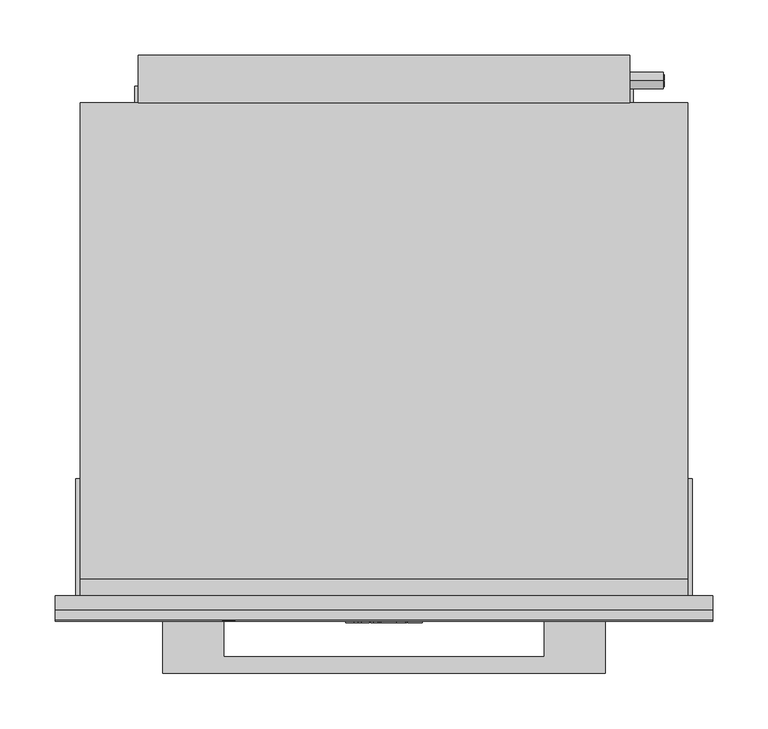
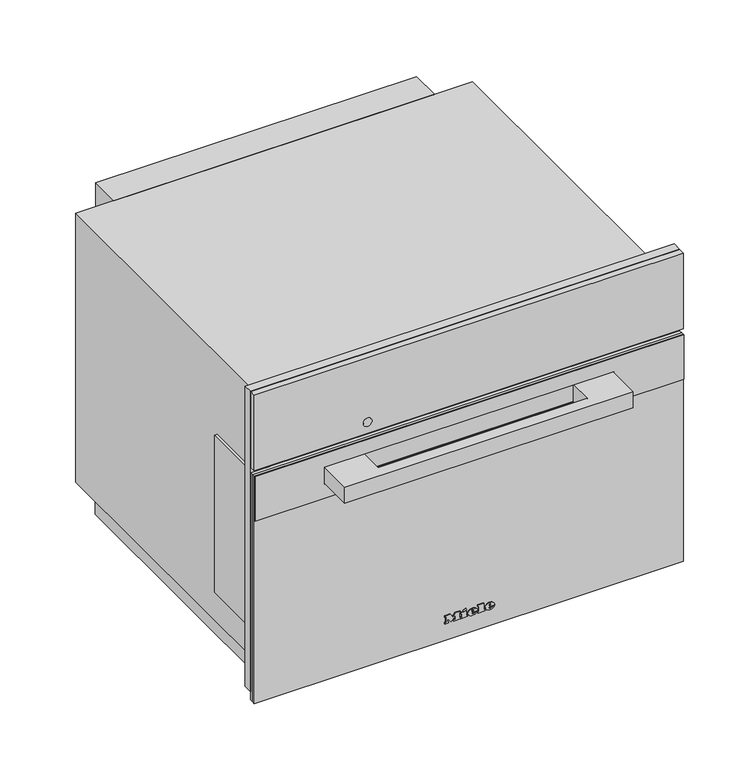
"""IFC4 building model written with IfcOpenShell, lengths in millimetres: proxy geometry, 11100130_F_M7240TC_EDST-CLST : 24724040_F_11100130_M7240TC_EDST-CLST."""

from ifc_helpers import new_model, si_unit, point, frame, frame_2d, origin, origin_with_axes, place, context, project, spatial, polyline, circle_curve, ellipse_curve, trimmed, segment, composite_curve, outline, extrude, faceted_brep, source, transform, mapped, element, save
from ifc_brep_helpers import plane_surface, cylinder_surface, revolved_surface, extruded_surface, advanced_brep


def specialty_equipment_d85db7c3(model_context):
    return source(origin(), model_context, "Body", "SolidModel", [
        extrude(outline(polyline([(456.0, 297.5), (456.0, -297.5), (16.0, -297.5), (16.0, 297.5), (456.0, 297.5)]), holes=[polyline([(347.0, -270.0), (347.0, 270.0), (40.0, 270.0), (40.0, -270.0), (347.0, -270.0)])]), frame((0.0, -13.0, 0.0), z_axis=(0.0, 1.0, 0.0), x_axis=(0.0, 0.0, 1.0)), (0.0, 0.0, 1.0), 13.0),
        extrude(outline(composite_curve([segment(trimmed(circle_curve(frame_2d((251.5, 37.5)), 10.5), [point((251.5, 27.0))], [point((251.5, 48.0))], False, "CARTESIAN"), True, "CONTINUOUS"), segment(trimmed(circle_curve(frame_2d((251.5, 37.5)), 10.5), [point((251.5, 48.0))], [point((251.5, 27.0))], False, "CARTESIAN"), True, "CONTINUOUS")], self_intersect=False)), origin_with_axes(), (0.0, 0.0, 1.0), 3.0),
        extrude(outline(composite_curve([segment(trimmed(circle_curve(frame_2d((251.5, 397.5)), 10.5), [point((251.5, 387.0))], [point((251.5, 408.0))], False, "CARTESIAN"), True, "CONTINUOUS"), segment(trimmed(circle_curve(frame_2d((251.5, 397.5)), 10.5), [point((251.5, 408.0))], [point((251.5, 387.0))], False, "CARTESIAN"), True, "CONTINUOUS")], self_intersect=False)), origin_with_axes(), (0.0, 0.0, 1.0), 3.0),
        extrude(outline(composite_curve([segment(trimmed(circle_curve(frame_2d((-251.5, 397.5)), 10.5), [point((-251.5, 387.0))], [point((-251.5, 408.0))], False, "CARTESIAN"), True, "CONTINUOUS"), segment(trimmed(circle_curve(frame_2d((-251.5, 397.5)), 10.5), [point((-251.5, 408.0))], [point((-251.5, 387.0))], False, "CARTESIAN"), True, "CONTINUOUS")], self_intersect=False)), origin_with_axes(), (0.0, 0.0, 1.0), 3.0),
        extrude(outline(composite_curve([segment(trimmed(circle_curve(frame_2d((-251.5, 37.5)), 10.5), [point((-251.5, 27.0))], [point((-251.5, 48.0))], False, "CARTESIAN"), True, "CONTINUOUS"), segment(trimmed(circle_curve(frame_2d((-251.5, 37.5)), 10.5), [point((-251.5, 48.0))], [point((-251.5, 27.0))], False, "CARTESIAN"), True, "CONTINUOUS")], self_intersect=False)), origin_with_axes(), (0.0, 0.0, 1.0), 3.0),
        extrude(outline(polyline([(115.0, 330.0), (115.0, 130.0), (-115.0, 130.0), (-115.0, 330.0), (115.0, 330.0)])), frame((0.0, 0.0, 11.0), z_axis=(0.0, 0.0, 1.0), x_axis=(1.0, 0.0, 0.0)), (0.0, 0.0, 1.0), 26.0),
        extrude(outline(composite_curve([segment(trimmed(circle_curve(frame_2d((466.0, 369.0)), 7.5), [point((466.0, 361.5))], [point((466.0, 376.5))], False, "CARTESIAN"), True, "CONTINUOUS"), segment(trimmed(circle_curve(frame_2d((466.0, 369.0)), 7.5), [point((466.0, 376.5))], [point((466.0, 361.5))], False, "CARTESIAN"), True, "CONTINUOUS")], self_intersect=False)), frame((222.5, 0.0, 0.0), z_axis=(1.0, 0.0, 0.0), x_axis=(0.0, 1.0, 0.0)), (0.0, 0.0, 1.0), 30.0),
        extrude(outline(polyline([(-222.5, 489.0), (222.5, 489.0), (222.5, 446.0), (-222.5, 446.0), (-222.5, 489.0)])), frame((0.0, 0.0, 316.0), z_axis=(0.0, 0.0, 1.0), x_axis=(1.0, 0.0, 0.0)), (0.0, 0.0, 1.0), 115.0),
        extrude(outline(polyline([(275.0, 0.0), (275.0, 106.0), (279.0, 106.0), (279.0, 0.0), (275.0, 0.0)])), frame((0.0, 0.0, 83.2054686), z_axis=(0.0, 0.0, 1.0), x_axis=(1.0, 0.0, 0.0)), (0.0, 0.0, 1.0), 230.0),
        extrude(outline(polyline([(-279.0, 0.0), (-279.0, 106.0), (-275.0, 106.0), (-275.0, 0.0), (-279.0, 0.0)])), frame((0.0, 0.0, 83.2054686), z_axis=(0.0, 0.0, 1.0), x_axis=(1.0, 0.0, 0.0)), (0.0, 0.0, 1.0), 230.0),
        extrude(outline(polyline([(460.5132233, 374.0), (465.5132233, 374.0), (465.5132233, 373.0), (461.5132233, 373.0), (461.5132233, 369.5), (464.5132233, 369.5), (464.5132233, 368.5), (461.5132233, 368.5), (461.5132233, 365.0), (465.5132233, 365.0), (465.5132233, 364.0), (460.5132233, 364.0), (460.5132233, 374.0)])), frame((252.5, 0.0, 0.0), z_axis=(1.0, 0.0, 0.0), x_axis=(0.0, 1.0, 0.0)), (0.0, 0.0, 1.0), 1.0),
        extrude(outline(polyline([(466.5132233, 364.0), (466.5132233, 374.0), (467.5176929, 374.0), (467.5176929, 365.0), (471.5132233, 365.0), (471.5132233, 364.0), (466.5132233, 364.0)])), frame((252.5, 0.0, 0.0), z_axis=(1.0, 0.0, 0.0), x_axis=(0.0, 1.0, 0.0)), (0.0, 0.0, 1.0), 1.0),
        extrude(outline(polyline([(289.0, -225.5), (58.0, -225.5), (58.0, 0.0), (58.0, 225.5), (289.0, 225.5), (289.0, 0.0), (289.0, -225.5)])), frame((0.0, 446.0, 0.0), z_axis=(0.0, 1.0, 0.0), x_axis=(0.0, 0.0, 1.0)), (0.0, 0.0, 1.0), 15.0),
        faceted_brep([(-275.0, 446.0, 431.0), (275.0, 446.0, 431.0), (275.0, 446.0, 37.0), (-275.0, 446.0, 37.0), (-275.0, 0.0, 37.0), (-264.0, 0.0, 37.0), (-264.0, 0.0, 3.0), (-239.0, 0.0, 3.0), (-239.0, 0.0, 37.0), (239.0, 0.0, 37.0), (239.0, 0.0, 3.0), (264.0, 0.0, 3.0), (264.0, 0.0, 37.0), (275.0, 0.0, 37.0), (275.0, 0.0, 438.0), (-275.0, 0.0, 438.0), (-270.0, 0.0, 347.0), (270.0, 0.0, 347.0), (270.0, 0.0, 40.0), (-270.0, 0.0, 40.0), (-275.0, 15.0, 431.0), (275.0, 15.0, 431.0), (-275.0, 15.0, 438.0), (275.0, 15.0, 438.0), (270.0, 16.0, 347.0), (-270.0, 16.0, 347.0), (-270.0, 16.0, 40.0), (270.0, 16.0, 40.0), (225.0, 16.0, 303.0), (225.0, 16.0, 71.0), (-225.0, 16.0, 71.0), (-225.0, 16.0, 303.0), (225.0, 444.0, 303.0), (-225.0, 444.0, 303.0), (-225.0, 444.0, 71.0), (225.0, 444.0, 71.0), (-239.0, 418.0, 37.0), (-264.0, 418.0, 37.0), (264.0, 418.0, 37.0), (239.0, 418.0, 37.0), (-239.0, 418.0, 3.0), (239.0, 418.0, 3.0), (264.0, 418.0, 3.0), (-264.0, 418.0, 3.0)], [[[0, 1, 2, 3]], [[4, 5, 6, 7, 8, 9, 10, 11, 12, 13, 14, 15], [16, 17, 18, 19]], [[1, 0, 20, 21]], [[0, 3, 4, 15, 22, 20]], [[2, 1, 21, 23, 14, 13]], [[24, 25, 26, 27], [28, 29, 30, 31]], [[25, 24, 17, 16]], [[26, 25, 16, 19]], [[27, 26, 19, 18]], [[24, 27, 18, 17]], [[32, 33, 34, 35]], [[32, 35, 29, 28]], [[35, 34, 30, 29]], [[34, 33, 31, 30]], [[33, 32, 28, 31]], [[14, 23, 22, 15]], [[23, 21, 20, 22]], [[36, 37, 5, 4, 3, 2, 13, 12, 38, 39, 9, 8]], [[36, 8, 7, 40]], [[9, 39, 41, 10]], [[39, 38, 42, 41]], [[38, 12, 11, 42]], [[5, 37, 43, 6]], [[37, 36, 40, 43]], [[7, 6, 43, 40]], [[11, 10, 41, 42]]]),
        advanced_brep(
        [(27.088, -24.3, 32.7018), (27.088, -24.3, 33.8532), (34.7146, -24.3, 33.8532), (21.445, -24.3, 33.8532), (24.58, -24.3, 30.0), (34.5208, -24.3, 32.7018), (31.078, -24.3, 32.7018), (28.3648, -24.3, 31.425), (27.088, -24.3, 35.3124), (27.088, -24.3, 36.555), (29.0374, -24.3, 36.555), (29.0374, -24.3, 35.3124), (27.088, -23.3, 32.7018), (28.3648, -23.3, 31.425), (31.078, -23.3, 32.7018), (34.5208, -23.3, 32.7018), (24.58, -23.3, 30.0), (21.445, -23.3, 33.8532), (34.7146, -23.3, 33.8532), (27.088, -23.3, 33.8532), (27.088, -23.3, 35.3124), (29.0374, -23.3, 35.3124), (29.0374, -23.3, 36.555), (27.088, -23.3, 36.555)],
        [
            (0, 1),
            (1, 2),
            (2, 3, ellipse_curve(frame((28.0798, -24.3, 33.8532), z_axis=(0.0, -1.0, 0.0), x_axis=(-1.0, 0.0, 0.0)), 6.6348, 5.4834)),
            (3, 4, circle_curve(frame((25.8568622, -24.3, 34.2408), z_axis=(0.0, -1.0, 0.0), x_axis=(0.0, 0.0, -1.0)), 4.4288556)),
            (4, 5, circle_curve(frame((27.9469808, -24.3, 37.2504), z_axis=(0.0, -1.0, 0.0), x_axis=(0.0, 0.0, -1.0)), 7.9940516)),
            (5, 6),
            (6, 7, circle_curve(frame((28.9220588, -24.3, 33.762), z_axis=(0.0, 1.0, 0.0), x_axis=(0.0, 0.0, -1.0)), 2.4025208)),
            (7, 0, circle_curve(frame((28.3648, -24.3, 32.7018), z_axis=(0.0, 1.0, 0.0), x_axis=(0.0, 0.0, -1.0)), 1.2768)),
            (8, 9),
            (9, 10, circle_curve(frame((28.0627, -24.3, 36.555), z_axis=(0.0, 1.0, 0.0), x_axis=(0.0, 0.0, -1.0)), 0.9747)),
            (10, 11),
            (11, 8),
            (12, 13, circle_curve(frame((28.3648, -23.3, 32.7018), z_axis=(0.0, -1.0, 0.0), x_axis=(0.0, 0.0, -1.0)), 1.2768)),
            (13, 14, circle_curve(frame((28.9220588, -23.3, 33.762), z_axis=(0.0, -1.0, 0.0), x_axis=(0.0, 0.0, -1.0)), 2.4025208)),
            (14, 15),
            (15, 16, circle_curve(frame((27.9469808, -23.3, 37.2504), z_axis=(0.0, 1.0, 0.0), x_axis=(0.0, 0.0, -1.0)), 7.9940516)),
            (16, 17, circle_curve(frame((25.8568622, -23.3, 34.2408), z_axis=(0.0, 1.0, 0.0), x_axis=(0.0, 0.0, -1.0)), 4.4288556)),
            (17, 18, ellipse_curve(frame((28.0798, -23.3, 33.8532), z_axis=(0.0, 1.0, 0.0), x_axis=(-1.0, 0.0, 0.0)), 6.6348, 5.4834)),
            (18, 19),
            (19, 12),
            (20, 21),
            (21, 22),
            (22, 23, circle_curve(frame((28.0627, -23.3, 36.555), z_axis=(0.0, -1.0, 0.0), x_axis=(0.0, 0.0, -1.0)), 0.9747)),
            (23, 20),
            (0, 12),
            (19, 1),
            (18, 2),
            (5, 15),
            (14, 6),
            (17, 3),
            (13, 7),
            (16, 4),
            (8, 20),
            (23, 9),
            (22, 10),
            (21, 11),
        ],
        [
            plane_surface(frame((27.088, -24.3, 33.8532), z_axis=(0.0, -1.0, 0.0), x_axis=(0.0, 0.0, 1.0))),
            plane_surface(frame((27.088, -23.3, 33.8532), z_axis=(0.0, 1.0, 0.0), x_axis=(0.0, 0.0, -1.0))),
            plane_surface(frame((27.088, -24.3, 32.7018), z_axis=(1.0, 0.0, 0.0), x_axis=(0.0, 1.0, 0.0))),
            plane_surface(frame((27.088, -24.3, 33.8532), z_axis=(0.0, 0.0, -1.0), x_axis=(0.0, 1.0, 0.0))),
            plane_surface(frame((34.5208, -24.3, 32.7018), z_axis=(0.0, 0.0, 1.0), x_axis=(0.0, 1.0, 0.0))),
            extruded_surface(trimmed(ellipse_curve(frame((28.0798, -22.3, 33.8532), z_axis=(0.0, -1.0, 0.0), x_axis=(-1.0, 0.0, 0.0)), 6.6348, 5.4834), [point((34.7146, -22.3, 33.8532))], [point((21.445, -22.3, 33.8532))], True, "CARTESIAN"), (0.0, -1.0, 0.0), 1.0),
            revolved_surface(polyline([(28.9220588, -23.3, 31.3594792), (28.9220588, -24.3, 31.3594792)]), (28.9220588, -23.3, 33.762), (0.0, 1.0, 0.0)),
            revolved_surface(polyline([(28.3648, -23.3, 31.424999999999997), (28.3648, -24.3, 31.424999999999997)]), (28.3648, -23.3, 32.7018), (0.0, 1.0, 0.0)),
            cylinder_surface(frame((25.8568622, -23.3, 34.2408), z_axis=(0.0, -1.0, 0.0), x_axis=(0.0, 0.0, -1.0)), 4.4288556),
            cylinder_surface(frame((27.9469808, -23.3, 37.2504), z_axis=(0.0, -1.0, 0.0), x_axis=(0.0, 0.0, -1.0)), 7.9940516),
            plane_surface(frame((27.088, -24.3, 35.3124), z_axis=(1.0, 0.0, 0.0), x_axis=(0.0, 1.0, 0.0))),
            revolved_surface(polyline([(28.0627, -23.3, 35.5803), (28.0627, -24.3, 35.5803)]), (28.0627, -23.3, 36.555), (0.0, 1.0, 0.0)),
            plane_surface(frame((29.0374, -24.3, 36.555), z_axis=(-1.0, 0.0, 0.0), x_axis=(0.0, 1.0, 0.0))),
            plane_surface(frame((29.0374, -24.3, 35.3124), z_axis=(0.0, 0.0, 1.0), x_axis=(0.0, 1.0, 0.0))),
        ],
        [
            (0, [[1, 2, 3, 4, 5, 6, 7, 8], [9, 10, 11, 12]]),
            (1, [[13, 14, 15, 16, 17, 18, 19, 20], [21, 22, 23, 24]]),
            (2, [[-1, 25, -20, 26]]),
            (3, [[-2, -26, -19, 27]]),
            (4, [[-6, 28, -15, 29]]),
            (5, [[-3, -27, -18, 30]]),
            (6, [[-7, -29, -14, 31]]),
            (7, [[-8, -31, -13, -25]]),
            (8, [[-4, -30, -17, 32]]),
            (9, [[-5, -32, -16, -28]]),
            (10, [[-9, 33, -24, 34]]),
            (11, [[-10, -34, -23, 35]]),
            (12, [[-11, -35, -22, 36]]),
            (13, [[-12, -36, -21, -33]]),
        ],
    ),
        advanced_brep(
        [(3.2962, -24.3, 32.7018), (3.2962, -24.3, 33.8532), (10.9228, -24.3, 33.8532), (-2.3468, -24.3, 33.8532), (0.7882, -24.3, 30.0), (10.729, -24.3, 32.7018), (7.2862, -24.3, 32.7018), (4.573, -24.3, 31.425), (3.2962, -24.3, 35.3124), (3.2962, -24.3, 36.555), (5.2456, -24.3, 36.555), (5.2456, -24.3, 35.3124), (3.2962, -23.3, 32.7018), (4.573, -23.3, 31.425), (7.2862, -23.3, 32.7018), (10.729, -23.3, 32.7018), (0.7882, -23.3, 30.0), (-2.3468, -23.3, 33.8532), (10.9228, -23.3, 33.8532), (3.2962, -23.3, 33.8532), (3.2962, -23.3, 35.3124), (5.2456, -23.3, 35.3124), (5.2456, -23.3, 36.555), (3.2962, -23.3, 36.555)],
        [
            (0, 1),
            (1, 2),
            (2, 3, ellipse_curve(frame((4.288, -24.3, 33.8532), z_axis=(0.0, -1.0, 0.0), x_axis=(-1.0, 0.0, 0.0)), 6.6348, 5.4834)),
            (3, 4, circle_curve(frame((2.0650622, -24.3, 34.2408), z_axis=(0.0, -1.0, 0.0), x_axis=(0.0, 0.0, -1.0)), 4.4288556)),
            (4, 5, circle_curve(frame((4.1551808, -24.3, 37.2504), z_axis=(0.0, -1.0, 0.0), x_axis=(0.0, 0.0, -1.0)), 7.9940516)),
            (5, 6),
            (6, 7, circle_curve(frame((5.1302588, -24.3, 33.762), z_axis=(0.0, 1.0, 0.0), x_axis=(0.0, 0.0, -1.0)), 2.4025208)),
            (7, 0, circle_curve(frame((4.573, -24.3, 32.7018), z_axis=(0.0, 1.0, 0.0), x_axis=(0.0, 0.0, -1.0)), 1.2768)),
            (8, 9),
            (9, 10, circle_curve(frame((4.2709, -24.3, 36.555), z_axis=(0.0, 1.0, 0.0), x_axis=(0.0, 0.0, -1.0)), 0.9747)),
            (10, 11),
            (11, 8),
            (12, 13, circle_curve(frame((4.573, -23.3, 32.7018), z_axis=(0.0, -1.0, 0.0), x_axis=(0.0, 0.0, -1.0)), 1.2768)),
            (13, 14, circle_curve(frame((5.1302588, -23.3, 33.762), z_axis=(0.0, -1.0, 0.0), x_axis=(0.0, 0.0, -1.0)), 2.4025208)),
            (14, 15),
            (15, 16, circle_curve(frame((4.1551808, -23.3, 37.2504), z_axis=(0.0, 1.0, 0.0), x_axis=(0.0, 0.0, -1.0)), 7.9940516)),
            (16, 17, circle_curve(frame((2.0650622, -23.3, 34.2408), z_axis=(0.0, 1.0, 0.0), x_axis=(0.0, 0.0, -1.0)), 4.4288556)),
            (17, 18, ellipse_curve(frame((4.288, -23.3, 33.8532), z_axis=(0.0, 1.0, 0.0), x_axis=(-1.0, 0.0, 0.0)), 6.6348, 5.4834)),
            (18, 19),
            (19, 12),
            (20, 21),
            (21, 22),
            (22, 23, circle_curve(frame((4.2709, -23.3, 36.555), z_axis=(0.0, -1.0, 0.0), x_axis=(0.0, 0.0, -1.0)), 0.9747)),
            (23, 20),
            (0, 12),
            (19, 1),
            (18, 2),
            (5, 15),
            (14, 6),
            (17, 3),
            (13, 7),
            (16, 4),
            (8, 20),
            (23, 9),
            (22, 10),
            (21, 11),
        ],
        [
            plane_surface(frame((3.2962, -24.3, 33.8532), z_axis=(0.0, -1.0, 0.0), x_axis=(0.0, 0.0, 1.0))),
            plane_surface(frame((3.2962, -23.3, 33.8532), z_axis=(0.0, 1.0, 0.0), x_axis=(0.0, 0.0, -1.0))),
            plane_surface(frame((3.2962, -24.3, 32.7018), z_axis=(1.0, 0.0, 0.0), x_axis=(0.0, 1.0, 0.0))),
            plane_surface(frame((3.2962, -24.3, 33.8532), z_axis=(0.0, 0.0, -1.0), x_axis=(0.0, 1.0, 0.0))),
            plane_surface(frame((10.729, -24.3, 32.7018), z_axis=(0.0, 0.0, 1.0), x_axis=(0.0, 1.0, 0.0))),
            extruded_surface(trimmed(ellipse_curve(frame((4.288, -22.3, 33.8532), z_axis=(0.0, -1.0, 0.0), x_axis=(-1.0, 0.0, 0.0)), 6.6348, 5.4834), [point((10.9228, -22.3, 33.8532))], [point((-2.3468, -22.3, 33.8532))], True, "CARTESIAN"), (0.0, -1.0, 0.0), 1.0),
            revolved_surface(polyline([(5.1302588, -23.3, 31.3594792), (5.1302588, -24.3, 31.3594792)]), (5.1302588, -23.3, 33.762), (0.0, 1.0, 0.0)),
            revolved_surface(polyline([(4.573, -23.3, 31.424999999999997), (4.573, -24.3, 31.424999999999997)]), (4.573, -23.3, 32.7018), (0.0, 1.0, 0.0)),
            cylinder_surface(frame((2.0650622, -23.3, 34.2408), z_axis=(0.0, -1.0, 0.0), x_axis=(0.0, 0.0, -1.0)), 4.4288556),
            cylinder_surface(frame((4.1551808, -23.3, 37.2504), z_axis=(0.0, -1.0, 0.0), x_axis=(0.0, 0.0, -1.0)), 7.9940516),
            plane_surface(frame((3.2962, -24.3, 35.3124), z_axis=(1.0, 0.0, 0.0), x_axis=(0.0, 1.0, 0.0))),
            revolved_surface(polyline([(4.2709, -23.3, 35.5803), (4.2709, -24.3, 35.5803)]), (4.2709, -23.3, 36.555), (0.0, 1.0, 0.0)),
            plane_surface(frame((5.2456, -24.3, 36.555), z_axis=(-1.0, 0.0, 0.0), x_axis=(0.0, 1.0, 0.0))),
            plane_surface(frame((5.2456, -24.3, 35.3124), z_axis=(0.0, 0.0, 1.0), x_axis=(0.0, 1.0, 0.0))),
        ],
        [
            (0, [[1, 2, 3, 4, 5, 6, 7, 8], [9, 10, 11, 12]]),
            (1, [[13, 14, 15, 16, 17, 18, 19, 20], [21, 22, 23, 24]]),
            (2, [[-1, 25, -20, 26]]),
            (3, [[-2, -26, -19, 27]]),
            (4, [[-6, 28, -15, 29]]),
            (5, [[-3, -27, -18, 30]]),
            (6, [[-7, -29, -14, 31]]),
            (7, [[-8, -31, -13, -25]]),
            (8, [[-4, -30, -17, 32]]),
            (9, [[-5, -32, -16, -28]]),
            (10, [[-9, 33, -24, 34]]),
            (11, [[-10, -34, -23, 35]]),
            (12, [[-11, -35, -22, 36]]),
            (13, [[-12, -36, -21, -33]]),
        ],
    ),
        extrude(outline(polyline([(40.7274, -9.164), (38.8806, -8.2976), (40.6818, -4.433), (42.5286, -5.288), (40.7274, -9.164)])), frame((0.0, -24.3, 0.0), z_axis=(0.0, 1.0, 0.0), x_axis=(0.0, 0.0, 1.0)), (0.0, 0.0, 1.0), 1.0),
        extrude(outline(polyline([(38.6298, -11.9798), (36.5892, -11.9798), (36.5892, -10.6232), (31.9152, -10.6232), (31.9152, -11.9798), (30.0, -11.9798), (30.0, -2.9852), (31.9152, -2.9852), (31.9152, -4.3076), (38.6298, -4.3076), (38.6298, -11.9798)])), frame((0.0, -24.3, 0.0), z_axis=(0.0, 1.0, 0.0), x_axis=(0.0, 0.0, 1.0)), (0.0, 0.0, 1.0), 1.0),
        extrude(outline(polyline([(39.5418, 11.5612), (39.5418, 12.9292), (31.9152, 12.9292), (31.9152, 11.5612), (30.0, 11.5612), (30.0, 20.8066), (31.9152, 20.8066), (31.9152, 19.4044), (41.4, 19.4044), (41.4, 11.5612), (39.5418, 11.5612)])), frame((0.0, -24.3, 0.0), z_axis=(0.0, 1.0, 0.0), x_axis=(0.0, 0.0, 1.0)), (0.0, 0.0, 1.0), 1.0),
        extrude(outline(polyline([(39.5418, -34.7), (39.5418, -33.3206), (31.9152, -33.3206), (31.9152, -34.7), (30.0, -34.7), (30.0, -29.684), (31.9152, -29.684), (31.9152, -31.052), (36.7429247, -31.052), (30.0, -25.9562), (36.9402223, -20.8376), (31.9152, -20.8376), (31.9152, -22.2398), (30.0, -22.2398), (30.0, -13.1426), (31.9152, -13.1426), (31.9152, -14.5904), (39.5418, -14.5904), (39.5418, -13.1426), (41.4, -13.1426), (41.4, -20.0852), (37.125, -23.414), (41.4, -26.7542), (41.4, -34.7), (39.5418, -34.7)])), frame((0.0, -24.3, 0.0), z_axis=(0.0, 1.0, 0.0), x_axis=(0.0, 0.0, 1.0)), (0.0, 0.0, 1.0), 1.0),
        extrude(outline(polyline([(297.5, -22.0), (-297.5, -22.0), (-297.5, -13.0), (297.5, -13.0), (297.5, -22.0)])), frame((0.0, 0.0, 345.0), z_axis=(0.0, 0.0, 1.0), x_axis=(1.0, 0.0, 0.0)), (0.0, 0.0, 1.0), 111.0),
        extrude(outline(composite_curve([segment(trimmed(circle_curve(frame_2d((362.0, -140.5745637)), 6.0), [point((362.0, -146.5745637))], [point((362.0, -134.5745637))], False, "CARTESIAN"), True, "CONTINUOUS"), segment(trimmed(circle_curve(frame_2d((362.0, -140.5745637)), 6.0), [point((362.0, -134.5745637))], [point((362.0, -146.5745637))], False, "CARTESIAN"), True, "CONTINUOUS")], self_intersect=False)), frame((0.0, -22.5, 0.0), z_axis=(0.0, 1.0, 0.0), x_axis=(0.0, 0.0, 1.0)), (0.0, 0.0, 1.0), 1.0),
        extrude(outline(polyline([(337.0, 297.5), (337.0, -297.5), (272.0, -297.5), (272.0, 297.5), (337.0, 297.5)]), holes=[polyline([(317.0, -200.5), (317.0, 200.5), (292.0, 200.5), (292.0, -200.5), (317.0, -200.5)])]), frame((0.0, -23.3, 0.0), z_axis=(0.0, 1.0, 0.0), x_axis=(0.0, 0.0, 1.0)), (0.0, 0.0, 1.0), 1.3),
        extrude(outline(polyline([(-200.0, -70.3), (-200.0, -22.0), (-145.0, -22.0), (-145.0, -55.3), (145.0, -55.3), (145.0, -22.0), (200.0, -22.0), (200.0, -70.3), (-200.0, -70.3)])), frame((0.0, 0.0, 292.5), z_axis=(0.0, 0.0, 1.0), x_axis=(1.0, 0.0, 0.0)), (0.0, 0.0, 1.0), 24.0),
        extrude(outline(polyline([(-297.5, -18.0), (297.5, -18.0), (297.5, -22.0), (-297.5, -22.0), (-297.5, -18.0)])), frame((0.0, 0.0, 4.0), z_axis=(0.0, 0.0, 1.0), x_axis=(1.0, 0.0, 0.0)), (0.0, 0.0, 1.0), 333.0),
        extrude(outline(polyline([(297.5, -18.0), (-297.5, -18.0), (-297.5, -13.0), (297.5, -13.0), (297.5, -18.0)])), frame((0.0, 0.0, 4.0), z_axis=(0.0, 0.0, 1.0), x_axis=(1.0, 0.0, 0.0)), (0.0, 0.0, 1.0), 333.0),
    ])


if __name__ == "__main__":
    model = new_model("IFC4")
    model_context = context("Model", 3, world=origin())
    ifc_project = project(units=[si_unit("LENGTHUNIT", "METRE", prefix="MILLI")], contexts=[model_context])
    site = spatial("IfcSite", under=ifc_project)
    building = spatial("IfcBuilding", under=site)
    placement = place(None, origin())
    specialty_equipment_shape = specialty_equipment_d85db7c3(model_context)
    element("IfcBuildingElementProxy", 1, Name="11100130_F_M7240TC_EDST-CLST : 24724040_F_11100130_M7240TC_EDST-CLST", ObjectType="11100130_F_M7240TC_EDST-CLST : 24724040_F_11100130_M7240TC_EDST-CLST", at=placement, inside=building, context=model_context, shape_type="MappedRepresentation", body=[
        mapped(specialty_equipment_shape, transform((0.0, 0.0, 0.0), x_axis=(1.0, 0.0, 0.0), y_axis=(0.0, 1.0, 0.0), z_axis=(0.0, 0.0, 1.0))),
    ])
    save(model, "model.ifc")
